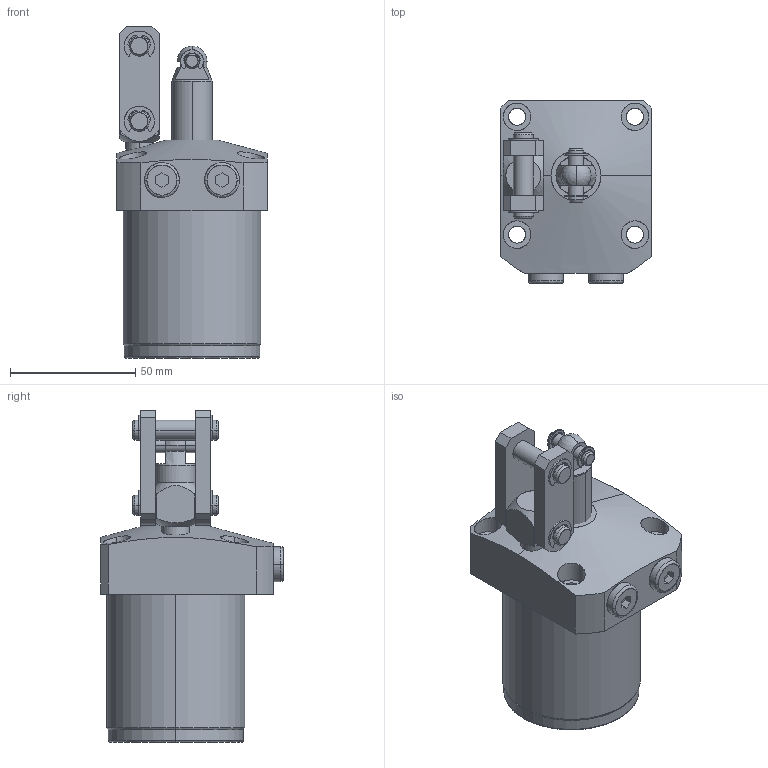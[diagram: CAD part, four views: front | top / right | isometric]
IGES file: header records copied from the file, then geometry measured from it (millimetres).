
Start section: SolidWorks IGES file using analytic representation for surfaces
Global section: file name: C:\Documents and Settings\nijil\My Documents\Clasys1\LQ Series\55\0401-0203.IGS; native system: SolidWorks 2010; preprocessor: SolidWorks 2010; author: nijil; date: 130723.125941; units: millimetre
Bounding box: 60 x 73 x 132.5 mm (x, y, z)
Surface area: 35440.5 mm2 (no closed solid volume)
Topology: 0 solids, 0 shells, 270 faces, 4411 edges, 4406 vertices
Faces by surface type: revolution 151, bspline 119
